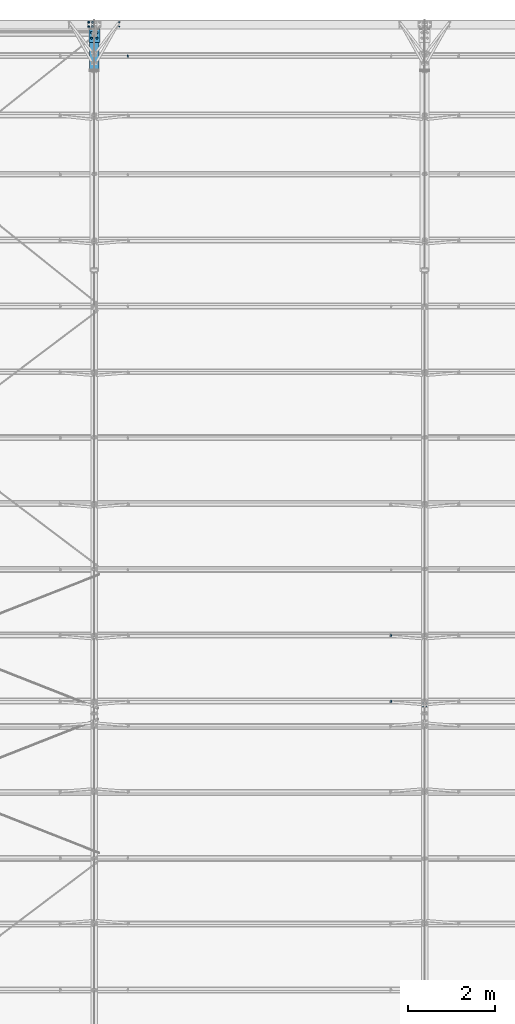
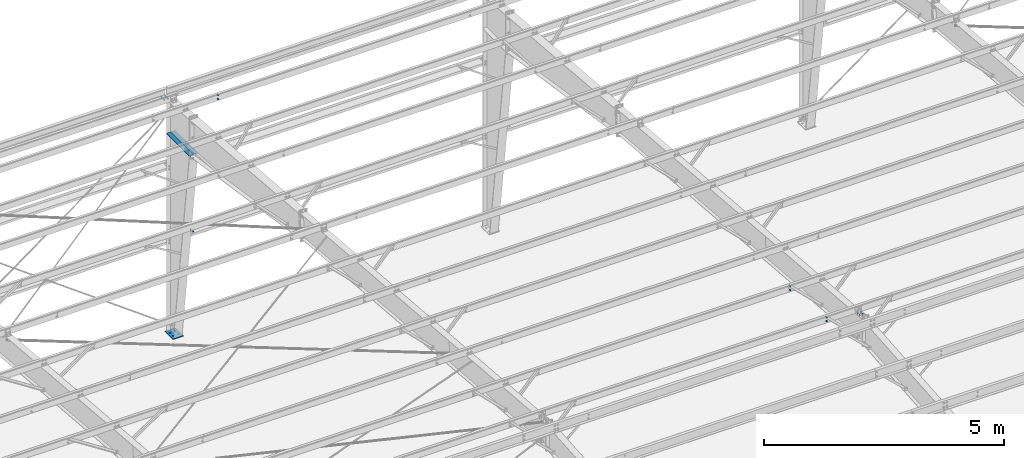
# One storey, part 93 of 185: 9 mechanical fasteners, 3 discrete accessories, 9 elements without a shape of their own.
"""IFC2X3 building model written with IfcOpenShell, lengths in millimetres."""

from ifc_helpers import new_model, si_unit, frame, origin_with_axes, origin_2d_with_axis, place, context, subcontext, project, spatial, polyline, rectangle, circle, outline, extrude, source, transform, mapped, material, type_object, element, aggregate, save


model = new_model("IFC2X3")

# Units and contexts
model_context = context("Model", 3, precision=1e-05, world=origin_with_axes())
body_context = subcontext(model_context, "Body", "Model", "MODEL_VIEW")
ifc_project = project(units=[si_unit("LENGTHUNIT", "METRE", prefix="MILLI"), si_unit("AREAUNIT", "SQUARE_METRE"), si_unit("VOLUMEUNIT", "CUBIC_METRE"), si_unit("MASSUNIT", "GRAM", prefix="KILO"), si_unit("TIMEUNIT", "SECOND"), si_unit("PLANEANGLEUNIT", "RADIAN"), si_unit("SOLIDANGLEUNIT", "STERADIAN"), si_unit("THERMODYNAMICTEMPERATUREUNIT", "DEGREE_CELSIUS"), si_unit("LUMINOUSINTENSITYUNIT", "LUMEN")], contexts=[model_context])

# Site, building, storey
site_placement = place(None, origin_with_axes())
site = spatial("IfcSite", under=ifc_project, at=site_placement, Name="Undefined", CompositionType="ELEMENT")
building_placement = place(site_placement, origin_with_axes())
building = spatial("IfcBuilding", under=site, at=building_placement, Name="Undefined", CompositionType="ELEMENT")
storey_placement = place(building_placement, origin_with_axes())
storey = spatial("IfcBuildingStorey", under=building, at=storey_placement, Name="Undefined", CompositionType="ELEMENT", Elevation=0.0)

# Assembly, discrete accessories
assembly_1_placement = place(storey_placement, origin_with_axes())
assembly_1 = element("IfcElementAssembly", 1, at=assembly_1_placement, inside=storey, Name="Steel Assembly", AssemblyPlace="NOTDEFINED", PredefinedType="RIGID_FRAME")
ifc_material_1 = material(Name="STEEL/55")
discrete_accessory_type_1 = type_object("IfcDiscreteAccessoryType", Name="Stiff")
discrete_accessory_1_placement = place(assembly_1_placement, frame((14804.23125, 31792.926, 5059.01498446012), z_axis=(1.0, 0.0, 0.0), x_axis=(0.0, -1.0, 0.0)))
discrete_accessory_1 = element("IfcDiscreteAccessory", 2, at=discrete_accessory_1_placement, type_object=discrete_accessory_type_1, material=ifc_material_1, Name="Stiff", ObjectType="FL3/8\"X4\"", context=body_context, shape_type="SweptSolid", body=[
    extrude(rectangle(XDim=9.525, YDim=101.6, at=origin_2d_with_axis()), frame((939.799999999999, 0.0, 0.0), z_axis=(-1.0, 0.0, 0.0), x_axis=(0.0, -1.0, 0.0)), (0.0, 0.0, 1.0), 939.8),
])
discrete_accessory_2_placement = place(assembly_1_placement, frame((14913.76875, 31792.926, 5059.01498446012), z_axis=(1.0, 0.0, 0.0), x_axis=(0.0, -1.0, 0.0)))
discrete_accessory_2 = element("IfcDiscreteAccessory", 3, at=discrete_accessory_2_placement, type_object=discrete_accessory_type_1, material=ifc_material_1, Name="Stiff", ObjectType="FL3/8\"X4\"", context=body_context, shape_type="SweptSolid", body=[
    extrude(rectangle(XDim=9.525, YDim=101.6, at=origin_2d_with_axis()), frame((939.799999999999, 0.0, 0.0), z_axis=(-1.0, 0.0, 0.0), x_axis=(0.0, -1.0, 0.0)), (0.0, 0.0, 1.0), 939.8),
])
discrete_accessory_type_2 = type_object("IfcDiscreteAccessoryType", Name="Base Plate")
discrete_accessory_3_placement = place(assembly_1_placement, frame((14859.0, 31813.4999998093, 7.93750000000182), z_axis=(-1.0, 0.0, 0.0), x_axis=(0.0, -1.0, 0.0)))
discrete_accessory_3 = element("IfcDiscreteAccessory", 4, at=discrete_accessory_3_placement, type_object=discrete_accessory_type_2, material=ifc_material_1, Name="Base Plate", ObjectType="FL5/8\"X10\"", context=body_context, shape_type="SweptSolid", body=[
    extrude(rectangle(XDim=15.875, YDim=254.0, at=origin_2d_with_axis()), frame((330.309933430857, 0.0, 0.0), z_axis=(-1.0, 0.0, 0.0), x_axis=(0.0, -1.0, 0.0)), (0.0, 0.0, 1.0), 330.3),
])

# Assembly, mechanical fastener
assembly_2_placement = place(storey_placement, origin_with_axes())
assembly_2 = element("IfcElementAssembly", 5, at=assembly_2_placement, inside=storey, Name="Steel Assembly", AssemblyPlace="NOTDEFINED", PredefinedType="RIGID_FRAME")
ifc_material_2 = material(Name="Undefined")
discrete_accessory_type_3 = type_object("IfcDiscreteAccessoryType", Name="Bolt assembly")
shared_shape_1 = source(origin_with_axes(), body_context, "Body", "SweptSolid", [
    extrude(circle(Radius=7.14374971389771, at=origin_2d_with_axis()), frame((0.0, -0.0238014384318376, 0.0), z_axis=(0.0, 1.0, 0.0), x_axis=(1.0, 0.0, 0.0)), (0.0, 0.0, 1.0), 8.0),
    extrude(circle(Radius=7.14374971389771, at=origin_2d_with_axis()), frame((0.0, -6.24999999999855, 0.0), z_axis=(0.0, 1.0, 0.0), x_axis=(1.0, 0.0, 0.0)), (0.0, 0.0, 1.0), 6.4),
    extrude(outline(polyline([(10.9985221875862, 0.0), (5.4992610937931, 9.52499961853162), (-5.4992610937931, 9.52499961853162), (-10.9985221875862, 0.0), (-5.4992610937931, -9.52499961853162), (5.4992610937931, -9.52499961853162), (10.9985221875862, 0.0)])), frame((0.0, -15.8750000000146, 0.0), z_axis=(0.0, 1.0, 0.0), x_axis=(1.0, 0.0, 0.0)), (0.0, 0.0, 1.0), 9.5),
    extrude(circle(Radius=6.34999990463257, at=origin_2d_with_axis()), frame((0.0, -6.34999953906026, 0.0), z_axis=(0.0, 1.0, 0.0), x_axis=(1.0, 0.0, 0.0)), (0.0, 0.0, 1.0), 38.1),
    extrude(outline(polyline([(12.8316099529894, 0.0), (6.4158049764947, 11.1125001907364), (-6.4158049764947, 11.1125001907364), (-12.8316099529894, 0.0), (-6.4158049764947, -11.1125001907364), (6.4158049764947, -11.1125001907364), (12.8316099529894, 0.0)])), frame((0.0, 7.95019856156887, 0.0), z_axis=(0.0, 1.0, 0.0), x_axis=(1.0, 0.0, 0.0)), (0.0, 0.0, 1.0), 12.3),
])
mechanical_fastener_1_placement = place(assembly_2_placement, frame((22479.0, 16250.9034877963, 7204.85371043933), z_axis=(1.0, 0.0, 0.0), x_axis=(0.0, -0.996545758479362, 0.0830454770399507)))
mechanical_fastener_1 = element("IfcMechanicalFastener", 6, at=mechanical_fastener_1_placement, type_object=discrete_accessory_type_3, material=ifc_material_2, Name="Bolt assembly", NominalDiameter=12.6999998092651, NominalLength=38.0999984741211, context=body_context, shape_type="MappedRepresentation", body=[
    mapped(shared_shape_1, transform((0.0, 0.0, -38.0999984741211))),
    mapped(shared_shape_1, transform((76.1999969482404, -1.38243194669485e-10, -38.0999984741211))),
    mapped(shared_shape_1, transform((0.0, 0.0, 38.0999984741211))),
    mapped(shared_shape_1, transform((76.1999969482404, -1.38243194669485e-10, 38.0999984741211))),
])
aggregate(assembly_2, [mechanical_fastener_1])

assembly_3_placement = place(storey_placement, origin_with_axes())
assembly_3 = element("IfcElementAssembly", 7, at=assembly_3_placement, inside=storey, Name="Steel Assembly", AssemblyPlace="NOTDEFINED", PredefinedType="RIGID_FRAME")
shared_shape_2 = source(origin_with_axes(), body_context, "Body", "SweptSolid", [
    extrude(circle(Radius=7.14374971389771, at=origin_2d_with_axis()), frame((0.0, -1.4900000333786, 0.0), z_axis=(0.0, 1.0, 0.0), x_axis=(1.0, 0.0, 0.0)), (0.0, 0.0, 1.0), 3.2),
    extrude(circle(Radius=7.14374971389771, at=origin_2d_with_axis()), frame((0.0, -1.4900000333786, 0.0), z_axis=(0.0, 1.0, 0.0), x_axis=(1.0, 0.0, 0.0)), (0.0, 0.0, 1.0), 3.2),
    extrude(outline(polyline([(10.9985221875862, 0.0), (5.4992610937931, 9.52499961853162), (-5.4992610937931, 9.52499961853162), (-10.9985221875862, 0.0), (-5.4992610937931, -9.52499961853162), (5.4992610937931, -9.52499961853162), (10.9985221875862, 0.0)])), frame((0.0, -11.1149996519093, 0.0), z_axis=(0.0, 1.0, 0.0), x_axis=(1.0, 0.0, 0.0)), (0.0, 0.0, 1.0), 9.5),
    extrude(circle(Radius=6.34999990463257, at=origin_2d_with_axis()), frame((0.0, -1.59000001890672, 0.0), z_axis=(0.0, 1.0, 0.0), x_axis=(1.0, 0.0, 0.0)), (0.0, 0.0, 1.0), 38.1),
    extrude(outline(polyline([(12.8316099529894, 0.0), (6.4158049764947, 11.1125001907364), (-6.4158049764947, 11.1125001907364), (-12.8316099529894, 0.0), (-6.4158049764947, -11.1125001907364), (6.4158049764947, -11.1125001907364), (12.8316099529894, 0.0)])), frame((0.0, 1.5900000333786, 0.0), z_axis=(0.0, 1.0, 0.0), x_axis=(1.0, 0.0, 0.0)), (0.0, 0.0, 1.0), 12.3),
])
mechanical_fastener_2_placement = place(assembly_3_placement, frame((21704.3, 16301.5280123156, 7353.56325121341), z_axis=(-1.0, 0.0, 0.0), x_axis=(0.0, -0.0830454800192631, -0.996545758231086)))
mechanical_fastener_2 = element("IfcMechanicalFastener", 8, at=mechanical_fastener_2_placement, type_object=discrete_accessory_type_3, material=ifc_material_2, Name="Bolt assembly", NominalDiameter=12.6999998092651, NominalLength=38.0999984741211, context=body_context, shape_type="MappedRepresentation", body=[
    mapped(shared_shape_2, transform((0.0, 0.0, 0.0))),
    mapped(shared_shape_2, transform((101.599998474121, 0.0, 0.0))),
])
aggregate(assembly_3, [mechanical_fastener_2])

assembly_4_placement = place(storey_placement, origin_with_axes())
assembly_4 = element("IfcElementAssembly", 9, at=assembly_4_placement, inside=storey, Name="Steel Assembly", AssemblyPlace="NOTDEFINED", PredefinedType="RIGID_FRAME")
mechanical_fastener_3_placement = place(assembly_4_placement, frame((21704.3, 17820.2637478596, 7227.0019396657), z_axis=(-1.0, 0.0, 0.0), x_axis=(0.0, -0.0830454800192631, -0.996545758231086)))
mechanical_fastener_3 = element("IfcMechanicalFastener", 10, at=mechanical_fastener_3_placement, type_object=discrete_accessory_type_3, material=ifc_material_2, Name="Bolt assembly", NominalDiameter=12.6999998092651, NominalLength=38.0999984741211, context=body_context, shape_type="MappedRepresentation", body=[
    mapped(shared_shape_2, transform((0.0, 0.0, 0.0))),
    mapped(shared_shape_2, transform((101.599998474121, 0.0, 0.0))),
])
aggregate(assembly_4, [mechanical_fastener_3])

assembly_5_placement = place(storey_placement, origin_with_axes())
assembly_5 = element("IfcElementAssembly", 11, at=assembly_5_placement, inside=storey, Name="Steel Assembly", AssemblyPlace="NOTDEFINED", PredefinedType="RIGID_FRAME")
mechanical_fastener_4_placement = place(assembly_5_placement, frame((15430.5, 31953.2, 4165.6), z_axis=(1.0, 0.0, 0.0), x_axis=(0.0, -1.0, 0.0)))
mechanical_fastener_4 = element("IfcMechanicalFastener", 12, at=mechanical_fastener_4_placement, type_object=discrete_accessory_type_3, material=ifc_material_2, Name="Bolt assembly", NominalDiameter=12.6999998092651, NominalLength=38.0999984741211, context=body_context, shape_type="MappedRepresentation", body=[
    mapped(shared_shape_2, transform((0.0, 0.0, 0.0))),
    mapped(shared_shape_2, transform((101.599998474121, 0.0, 0.0))),
])
aggregate(assembly_5, [mechanical_fastener_4])

assembly_6_placement = place(storey_placement, origin_with_axes())
assembly_6 = element("IfcElementAssembly", 13, at=assembly_6_placement, inside=storey, Name="Steel Assembly", AssemblyPlace="NOTDEFINED", PredefinedType="RIGID_FRAME")
mechanical_fastener_5_placement = place(assembly_6_placement, frame((15430.5, 31953.2, 2286.0), z_axis=(1.0, 0.0, 0.0), x_axis=(0.0, -1.0, 0.0)))
mechanical_fastener_5 = element("IfcMechanicalFastener", 14, at=mechanical_fastener_5_placement, type_object=discrete_accessory_type_3, material=ifc_material_2, Name="Bolt assembly", NominalDiameter=12.6999998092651, NominalLength=38.0999984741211, context=body_context, shape_type="MappedRepresentation", body=[
    mapped(shared_shape_2, transform((0.0, 0.0, 0.0))),
    mapped(shared_shape_2, transform((101.599998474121, 0.0, 0.0))),
])
aggregate(assembly_6, [mechanical_fastener_5])

assembly_7_placement = place(storey_placement, origin_with_axes())
assembly_7 = element("IfcElementAssembly", 15, at=assembly_7_placement, inside=storey, Name="Steel Assembly", AssemblyPlace="NOTDEFINED", PredefinedType="RIGID_FRAME")
mechanical_fastener_6_placement = place(assembly_7_placement, frame((15633.7, 31185.1382206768, 6113.2623980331), z_axis=(-1.0, 0.0, 0.0), x_axis=(0.0, -0.0830454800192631, -0.996545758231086)))
mechanical_fastener_6 = element("IfcMechanicalFastener", 16, at=mechanical_fastener_6_placement, type_object=discrete_accessory_type_3, material=ifc_material_2, Name="Bolt assembly", NominalDiameter=12.6999998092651, NominalLength=38.0999984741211, context=body_context, shape_type="MappedRepresentation", body=[
    mapped(shared_shape_2, transform((0.0, 0.0, 0.0))),
    mapped(shared_shape_2, transform((101.599998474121, 0.0, 0.0))),
])
aggregate(assembly_7, [mechanical_fastener_6])

assembly_8_placement = place(storey_placement, origin_with_axes())
assembly_8 = element("IfcElementAssembly", 17, at=assembly_8_placement, inside=storey, Name="Steel Assembly", AssemblyPlace="NOTDEFINED", PredefinedType="RIGID_FRAME")
shared_shape_3 = source(origin_with_axes(), body_context, "Body", "SweptSolid", [
    extrude(circle(Radius=7.14374971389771, at=origin_2d_with_axis()), frame((0.0, -7.8375000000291, 0.0), z_axis=(0.0, 1.0, 0.0), x_axis=(1.0, 0.0, 0.0)), (0.0, 0.0, 1.0), 6.3),
    extrude(circle(Radius=7.14374971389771, at=origin_2d_with_axis()), frame((0.0, -1.68750355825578, 0.0), z_axis=(0.0, 1.0, 0.0), x_axis=(1.0, 0.0, 0.0)), (0.0, 0.0, 1.0), 1.7),
    extrude(outline(polyline([(12.8316099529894, 0.0), (6.4158049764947, 11.1125001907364), (-6.4158049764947, 11.1125001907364), (-12.8316099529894, 0.0), (-6.4158049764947, -11.1125001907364), (6.4158049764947, -11.1125001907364), (12.8316099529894, 0.0)])), frame((0.0, -15.8750000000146, 0.0), z_axis=(0.0, 1.0, 0.0), x_axis=(1.0, 0.0, 0.0)), (0.0, 0.0, 1.0), 7.9),
    extrude(circle(Radius=6.34999990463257, at=origin_2d_with_axis()), frame((0.0, -7.93749389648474, 0.0), z_axis=(0.0, 1.0, 0.0), x_axis=(1.0, 0.0, 0.0)), (0.0, 0.0, 1.0), 50.8),
    extrude(circle(Radius=22.2250003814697, at=origin_2d_with_axis()), frame((0.0, 0.0, 0.0), z_axis=(0.0, 1.0, 0.0), x_axis=(1.0, 0.0, 0.0)), (0.0, 0.0, 1.0), 7.9),
    extrude(outline(polyline([(12.8316099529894, 0.0), (6.4158049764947, 11.1125001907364), (-6.4158049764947, 11.1125001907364), (-12.8316099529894, 0.0), (-6.4158049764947, -11.1125001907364), (6.4158049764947, -11.1125001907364), (12.8316099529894, 0.0)])), frame((0.0, 7.93750000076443, 0.0), z_axis=(0.0, 1.0, 0.0), x_axis=(1.0, 0.0, 0.0)), (0.0, 0.0, 1.0), 12.3),
])
mechanical_fastener_7_placement = place(assembly_8_placement, frame((14732.0, 31953.3754762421, 5896.3143754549), z_axis=(1.0, 0.0, 0.0), x_axis=(0.0, -0.996545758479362, 0.0830454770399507)))
mechanical_fastener_7 = element("IfcMechanicalFastener", 18, at=mechanical_fastener_7_placement, type_object=discrete_accessory_type_3, material=ifc_material_2, Name="Bolt assembly", NominalDiameter=12.6999998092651, NominalLength=50.7999992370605, context=body_context, shape_type="MappedRepresentation", body=[
    mapped(shared_shape_3, transform((0.0, 0.0, 0.0))),
    mapped(shared_shape_3, transform((101.599998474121, 0.0, 0.0))),
])
aggregate(assembly_8, [mechanical_fastener_7])

assembly_9_placement = place(storey_placement, origin_with_axes())
assembly_9 = element("IfcElementAssembly", 19, at=assembly_9_placement, inside=storey, Name="Steel Assembly", AssemblyPlace="NOTDEFINED", PredefinedType="RIGID_FRAME")
shared_shape_4 = source(origin_with_axes(), body_context, "Body", "SweptSolid", [
    extrude(circle(Radius=7.14499998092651, at=origin_2d_with_axis()), frame((0.0, -1.58749999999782, 0.0), z_axis=(0.0, 1.0, 0.0), x_axis=(1.0, 0.0, 0.0)), (0.0, 0.0, 1.0), 1.6),
    extrude(circle(Radius=7.14499998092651, at=origin_2d_with_axis()), frame((0.0, -7.8375000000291, 0.0), z_axis=(0.0, 1.0, 0.0), x_axis=(1.0, 0.0, 0.0)), (0.0, 0.0, 1.0), 6.3),
    extrude(circle(Radius=7.14499998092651, at=origin_2d_with_axis()), frame((0.0, -0.1, 0.0), z_axis=(0.0, 1.0, 0.0), x_axis=(1.0, 0.0, 0.0)), (0.0, 0.0, 1.0), 8.1),
    extrude(outline(polyline([(12.8316099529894, 0.0), (6.4158049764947, 11.1125001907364), (-6.4158049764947, 11.1125001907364), (-12.8316099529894, 0.0), (-6.4158049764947, -11.1125001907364), (6.4158049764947, -11.1125001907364), (12.8316099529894, 0.0)])), frame((0.0, -15.8750000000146, 0.0), z_axis=(0.0, 1.0, 0.0), x_axis=(1.0, 0.0, 0.0)), (0.0, 0.0, 1.0), 7.9),
    extrude(circle(Radius=6.34999990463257, at=origin_2d_with_axis()), frame((0.0, -7.93749389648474, 0.0), z_axis=(0.0, 1.0, 0.0), x_axis=(1.0, 0.0, 0.0)), (0.0, 0.0, 1.0), 50.8),
    extrude(circle(Radius=22.2250003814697, at=origin_2d_with_axis()), frame((0.0, 7.95019856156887, 0.0), z_axis=(0.0, 1.0, 0.0), x_axis=(1.0, 0.0, 0.0)), (0.0, 0.0, 1.0), 7.9),
    extrude(outline(polyline([(12.8316099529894, 0.0), (6.4158049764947, 11.1125001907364), (-6.4158049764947, 11.1125001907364), (-12.8316099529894, 0.0), (-6.4158049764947, -11.1125001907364), (6.4158049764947, -11.1125001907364), (12.8316099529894, 0.0)])), frame((0.0, 15.8876985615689, 0.0), z_axis=(0.0, 1.0, 0.0), x_axis=(1.0, 0.0, 0.0)), (0.0, 0.0, 1.0), 12.3),
])
mechanical_fastener_8_placement = place(assembly_9_placement, frame((14820.9, 31953.3754762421, 5896.3143754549), z_axis=(1.0, 0.0, 0.0), x_axis=(0.0, -0.996545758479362, 0.0830454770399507)))
mechanical_fastener_8 = element("IfcMechanicalFastener", 20, at=mechanical_fastener_8_placement, type_object=discrete_accessory_type_3, material=ifc_material_2, Name="Bolt assembly", NominalDiameter=12.6999998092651, NominalLength=50.7999992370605, context=body_context, shape_type="MappedRepresentation", body=[
    mapped(shared_shape_4, transform((0.0, 0.0, 0.0))),
    mapped(shared_shape_4, transform((101.599998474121, 0.0, 0.0))),
])
aggregate(assembly_9, [mechanical_fastener_8])

# Mechanical fastener
ifc_material_3 = material(Name="7990")
shared_shape_5 = source(origin_with_axes(), body_context, "Body", "SweptSolid", [
    extrude(circle(Radius=18.2562503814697, at=origin_2d_with_axis()), frame((0.0, -15.8750000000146, 0.0), z_axis=(0.0, 1.0, 0.0), x_axis=(1.0, 0.0, 0.0)), (0.0, 0.0, 1.0), 16.0),
    extrude(circle(Radius=28.575, at=origin_2d_with_axis()), frame((0.0, 0.0, 0.0), z_axis=(0.0, 1.0, 0.0), x_axis=(1.0, 0.0, 0.0)), (0.0, 0.0, 1.0), 10.5),
    extrude(outline(polyline([(30.4292459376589, 0.0), (15.2146229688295, 26.3525000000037), (-15.2146229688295, 26.3525000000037), (-30.4292459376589, 0.0), (-15.2146229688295, -26.3525000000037), (15.2146229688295, -26.3525000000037), (30.4292459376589, 0.0)])), frame((0.0, 10.4775, 0.0), z_axis=(0.0, 1.0, 0.0), x_axis=(1.0, 0.0, 0.0)), (0.0, 0.0, 1.0), 21.0),
])
mechanical_fastener_9_placement = place(assembly_1_placement, frame((14859.0, 31711.8999984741, 1.81898940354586e-12), z_axis=(1.0, 0.0, 0.0), x_axis=(0.0, -1.0, 0.0)))
mechanical_fastener_9 = element("IfcMechanicalFastener", 21, at=mechanical_fastener_9_placement, type_object=discrete_accessory_type_3, material=ifc_material_3, Name="Bolt assembly", NominalDiameter=31.75, NominalLength=15.875, context=body_context, shape_type="MappedRepresentation", body=[
    mapped(shared_shape_5, transform((0.0, 0.0, -63.5))),
    mapped(shared_shape_5, transform((127.0, 0.0, -63.5))),
    mapped(shared_shape_5, transform((0.0, 0.0, 63.5))),
    mapped(shared_shape_5, transform((127.0, 0.0, 63.5))),
])

aggregate(assembly_1, [mechanical_fastener_9, discrete_accessory_1, discrete_accessory_2, discrete_accessory_3])

save(model, "model.ifc")
